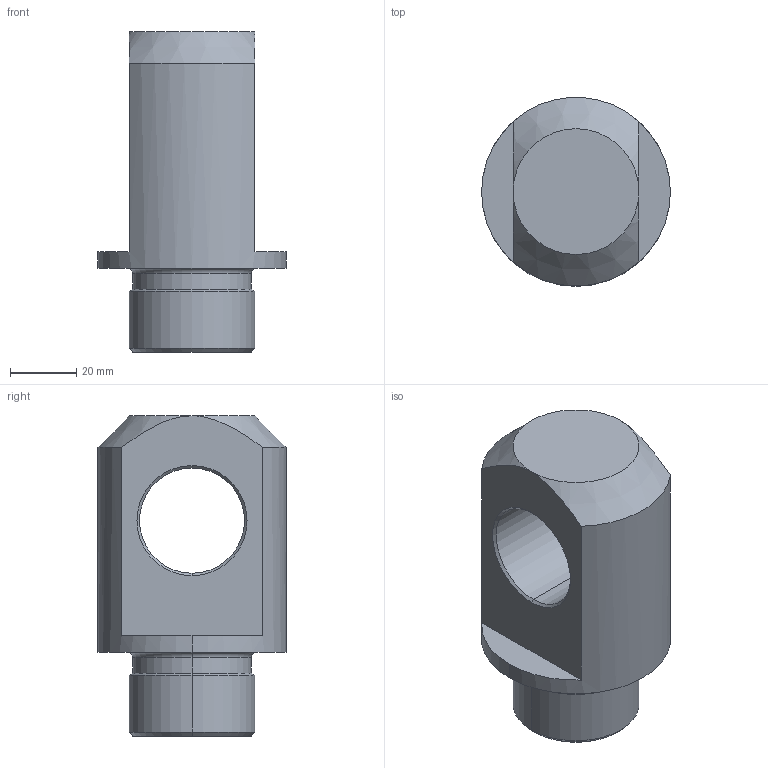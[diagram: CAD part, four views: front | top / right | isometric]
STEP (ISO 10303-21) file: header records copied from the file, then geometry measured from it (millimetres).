
FILE_DESCRIPTION((''),'2;1');
FILE_NAME('CU470056','2015-06-15T',('mike.ward'),(''),'PRO/ENGINEER BY PARAMETRIC TECHNOLOGY CORPORATION, 2014200','PRO/ENGINEER BY PARAMETRIC TECHNOLOGY CORPORATION, 2014200','');
FILE_SCHEMA(('CONFIG_CONTROL_DESIGN'));
Length unit declared in the file: inch
Products named in the file (1): CU470056
Bounding box: 57.15 x 57.15 x 97.03 mm (x, y, z)
Volume: 140107.6 mm3; surface area: 23843.6 mm2
Topology: 1 solids, 2 shells, 29 faces, 64 edges, 38 vertices
Faces by surface type: cone 10, cylinder 10, plane 7, torus 2
Entity records: 882 total; most frequent: CARTESIAN_POINT 170, DIRECTION 156, ORIENTED_EDGE 124, AXIS2_PLACEMENT_3D 66, EDGE_CURVE 64, VERTEX_POINT 38, CIRCLE 36, EDGE_LOOP 32
